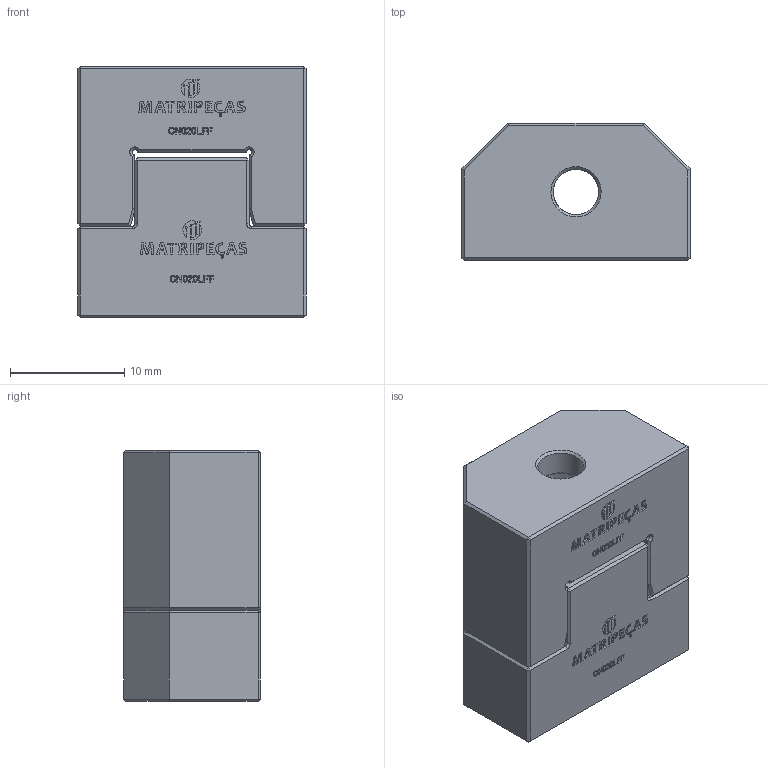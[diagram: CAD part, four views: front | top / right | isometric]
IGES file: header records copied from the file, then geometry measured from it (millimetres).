
Start section: C
Global section: file name: CN020LFF.igs; native system: By Siemens PLM Incorporated; preprocessor: XPlus GENERIC/IGES 18.0.17; author: Author; organization: Title; date: 20240725.134649; units: millimetre
Bounding box: 20 x 12 x 22 mm (x, y, z)
Volume: 4198.1 mm3; surface area: 2812.1 mm2
Topology: 2 solids, 2 shells, 574 faces, 1472 edges, 956 vertices
Faces by surface type: bspline 574
